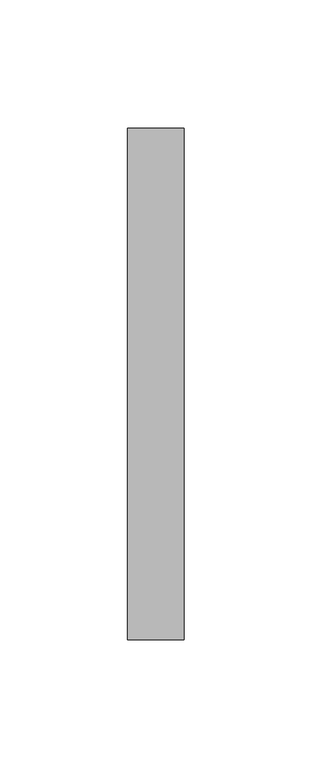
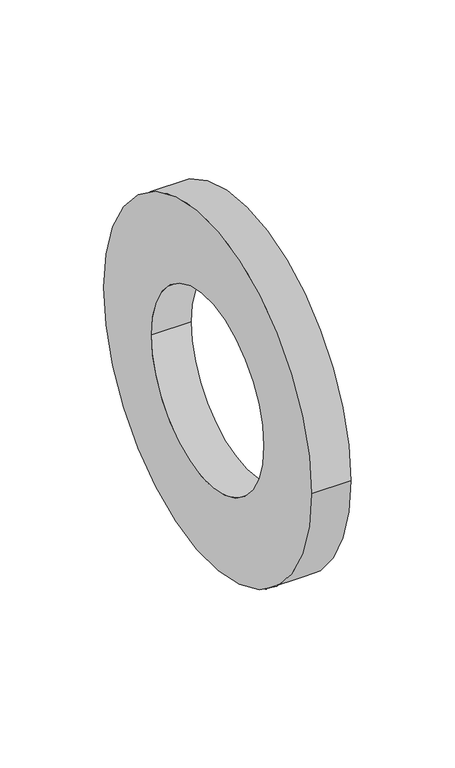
"""IFC4 building model written with IfcOpenShell, lengths in millimetres: pipe fitting geometry, NIRON accesorio brida : Estándar."""

from ifc_helpers import new_model, si_unit, point, frame, origin, origin_2d, place, context, project, spatial, circle_curve, trimmed, segment, composite_curve, outline, extrude, source, transform, mapped, element, save


def pipe_fitting_eb6ada95(model_context):
    return source(origin(), model_context, "Body", "SweptSolid", [
        extrude(outline(composite_curve([segment(trimmed(circle_curve(origin_2d(), 100.0), [point((100.0, 0.0))], [point((-100.0, 0.0))], False, "CARTESIAN"), True, "CONTINUOUS"), segment(trimmed(circle_curve(origin_2d(), 100.0), [point((-100.0, 0.0))], [point((100.0, 0.0))], False, "CARTESIAN"), True, "CONTINUOUS")], self_intersect=False), holes=[composite_curve([segment(trimmed(circle_curve(origin_2d(), 54.0), [point((54.0, 0.0))], [point((-54.0, 0.0))], True, "CARTESIAN"), True, "CONTINUOUS"), segment(trimmed(circle_curve(origin_2d(), 54.0), [point((-54.0, 0.0))], [point((54.0, 0.0))], True, "CARTESIAN"), True, "CONTINUOUS")], self_intersect=False)]), frame((2.4830127, 0.0, 0.0), z_axis=(1.0, 0.0, 0.0), x_axis=(0.0, 1.0, 0.0)), (0.0, 0.0, 1.0), 22.0),
    ])


if __name__ == "__main__":
    model = new_model("IFC4")
    model_context = context("Model", 3, world=origin())
    ifc_project = project(units=[si_unit("LENGTHUNIT", "METRE", prefix="MILLI")], contexts=[model_context])
    site = spatial("IfcSite", under=ifc_project)
    building = spatial("IfcBuilding", under=site)
    placement = place(None, origin())
    pipe_fitting_shape = pipe_fitting_eb6ada95(model_context)
    element("IfcPipeFitting", 1, ObjectType="NIRON accesorio brida : Estándar", at=placement, inside=building, context=model_context, shape_type="MappedRepresentation", body=[
        mapped(pipe_fitting_shape, transform((0.0, 0.0, 0.0), x_axis=(1.0, 0.0, 0.0), y_axis=(0.0, 1.0, 0.0), z_axis=(0.0, 0.0, 1.0))),
    ])
    save(model, "model.ifc")
